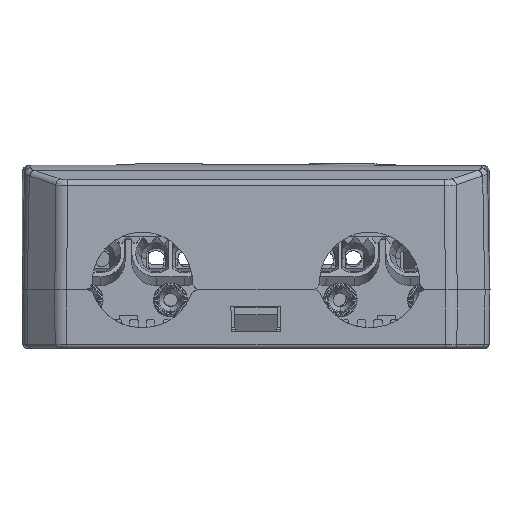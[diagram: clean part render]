
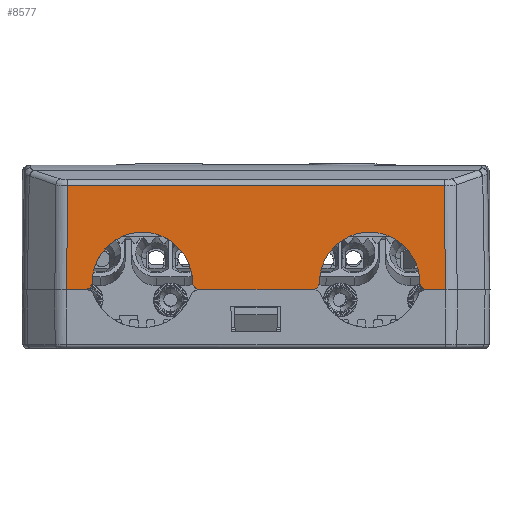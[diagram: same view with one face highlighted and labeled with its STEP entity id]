
A CAD part, left-side view. The second image highlights one B-rep face of the part: STEP entity #8577.
In plain terms, the highlighted planar face has unit normal (-1, 0, 0.018).
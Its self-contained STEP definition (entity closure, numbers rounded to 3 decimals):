
#1775=B_SPLINE_CURVE_WITH_KNOTS('',3,(#107544,#107545,#107546,#107547),
 .UNSPECIFIED.,.F.,.F.,(4,4),(0.,1.),.UNSPECIFIED.);
#1813=B_SPLINE_CURVE_WITH_KNOTS('',3,(#108153,#108154,#108155,#108156),
 .UNSPECIFIED.,.F.,.F.,(4,4),(0.,1.),.UNSPECIFIED.);
#5161=FACE_OUTER_BOUND('',#14486,.T.);
#8577=ADVANCED_FACE('',(#5161),#11369,.T.);
#11369=PLANE('',#71352);
#14486=EDGE_LOOP('',(#30129,#30130,#30131,#30132,#30133,#30134,#30135,#30136,
#30137,#30138,#30139,#30140));
#16421=ELLIPSE('',#71346,1.,1.);
#16422=ELLIPSE('',#71347,6.001,6.);
#16423=ELLIPSE('',#71348,1.,1.);
#16424=ELLIPSE('',#71349,1.,1.);
#16425=ELLIPSE('',#71350,6.001,6.);
#16426=ELLIPSE('',#71351,1.,1.);
#30129=ORIENTED_EDGE('',*,*,#50685,.F.);
#30130=ORIENTED_EDGE('',*,*,#50682,.F.);
#30131=ORIENTED_EDGE('',*,*,#50842,.T.);
#30132=ORIENTED_EDGE('',*,*,#50843,.T.);
#30133=ORIENTED_EDGE('',*,*,#50844,.T.);
#30134=ORIENTED_EDGE('',*,*,#50845,.F.);
#30135=ORIENTED_EDGE('',*,*,#50846,.T.);
#30136=ORIENTED_EDGE('',*,*,#50847,.T.);
#30137=ORIENTED_EDGE('',*,*,#50848,.T.);
#30138=ORIENTED_EDGE('',*,*,#50815,.F.);
#30139=ORIENTED_EDGE('',*,*,#50841,.F.);
#30140=ORIENTED_EDGE('',*,*,#50849,.F.);
#41924=VERTEX_POINT('',#107537);
#41925=VERTEX_POINT('',#107539);
#41927=VERTEX_POINT('',#107548);
#42018=VERTEX_POINT('',#108003);
#42019=VERTEX_POINT('',#108005);
#42036=VERTEX_POINT('',#108120);
#42037=VERTEX_POINT('',#108159);
#42038=VERTEX_POINT('',#108161);
#42039=VERTEX_POINT('',#108163);
#42040=VERTEX_POINT('',#108165);
#42041=VERTEX_POINT('',#108167);
#42042=VERTEX_POINT('',#108169);
#50682=EDGE_CURVE('',#41924,#41925,#59197,.T.);
#50685=EDGE_CURVE('',#41925,#41927,#1775,.T.);
#50815=EDGE_CURVE('',#42018,#42019,#59267,.T.);
#50841=EDGE_CURVE('',#42036,#42018,#1813,.T.);
#50842=EDGE_CURVE('',#41924,#42037,#16421,.T.);
#50843=EDGE_CURVE('',#42037,#42038,#16422,.T.);
#50844=EDGE_CURVE('',#42038,#42039,#16423,.T.);
#50845=EDGE_CURVE('',#42040,#42039,#59278,.T.);
#50846=EDGE_CURVE('',#42040,#42041,#16424,.T.);
#50847=EDGE_CURVE('',#42041,#42042,#16425,.T.);
#50848=EDGE_CURVE('',#42042,#42019,#16426,.T.);
#50849=EDGE_CURVE('',#41927,#42036,#59279,.T.);
#59197=LINE('',#107538,#65898);
#59267=LINE('',#108004,#65968);
#59278=LINE('',#108164,#65979);
#59279=LINE('',#108171,#65980);
#65898=VECTOR('',#83863,1.);
#65968=VECTOR('',#84069,1.);
#65979=VECTOR('',#84108,1.);
#65980=VECTOR('',#84115,1.);
#71346=AXIS2_PLACEMENT_3D('',#108158,#84102,#84103);
#71347=AXIS2_PLACEMENT_3D('',#108160,#84104,#84105);
#71348=AXIS2_PLACEMENT_3D('',#108162,#84106,#84107);
#71349=AXIS2_PLACEMENT_3D('',#108166,#84109,#84110);
#71350=AXIS2_PLACEMENT_3D('',#108168,#84111,#84112);
#71351=AXIS2_PLACEMENT_3D('',#108170,#84113,#84114);
#71352=AXIS2_PLACEMENT_3D('',#108172,#84116,#84117);
#83863=DIRECTION('',(0.,1.,0.));
#84069=DIRECTION('',(0.,1.,0.));
#84102=DIRECTION('',(-1.,0.,0.017));
#84103=DIRECTION('',(0.017,0.,1.));
#84104=DIRECTION('',(1.,0.,-0.017));
#84105=DIRECTION('',(0.017,0.,1.));
#84106=DIRECTION('',(-1.,0.,0.017));
#84107=DIRECTION('',(-0.017,0.,-1.));
#84108=DIRECTION('',(0.,1.,0.));
#84109=DIRECTION('',(-1.,0.,0.017));
#84110=DIRECTION('',(0.017,0.,1.));
#84111=DIRECTION('',(1.,0.,-0.017));
#84112=DIRECTION('',(-0.017,0.,-1.));
#84113=DIRECTION('',(-1.,0.,0.017));
#84114=DIRECTION('',(-0.017,0.,-1.));
#84115=DIRECTION('',(0.,-1.,0.));
#84116=DIRECTION('',(-1.,0.,0.017));
#84117=DIRECTION('',(0.,-1.,0.));
#107537=CARTESIAN_POINT('',(423.181,-87.551,-58.));
#107538=CARTESIAN_POINT('',(423.181,-87.551,-58.));
#107539=CARTESIAN_POINT('',(423.181,-85.499,-58.));
#107544=CARTESIAN_POINT('',(423.181,-85.499,-58.));
#107545=CARTESIAN_POINT('',(423.253,-85.529,-53.849));
#107546=CARTESIAN_POINT('',(423.325,-85.559,-49.699));
#107547=CARTESIAN_POINT('',(423.398,-85.589,-45.548));
#107548=CARTESIAN_POINT('',(423.398,-85.589,-45.548));
#108003=CARTESIAN_POINT('',(423.18,-130.801,-58.));
#108004=CARTESIAN_POINT('',(423.18,-130.801,-58.));
#108005=CARTESIAN_POINT('',(423.18,-128.749,-58.));
#108120=CARTESIAN_POINT('',(423.398,-130.711,-45.548));
#108153=CARTESIAN_POINT('',(423.398,-130.711,-45.548));
#108154=CARTESIAN_POINT('',(423.325,-130.741,-49.698));
#108155=CARTESIAN_POINT('',(423.253,-130.771,-53.849));
#108156=CARTESIAN_POINT('',(423.18,-130.801,-58.));
#108158=CARTESIAN_POINT('',(423.198,-87.551,-57.));
#108159=CARTESIAN_POINT('',(423.198,-88.55,-57.014));
#108160=CARTESIAN_POINT('',(423.196,-94.55,-57.1));
#108161=CARTESIAN_POINT('',(423.198,-100.549,-57.014));
#108162=CARTESIAN_POINT('',(423.198,-101.549,-57.));
#108163=CARTESIAN_POINT('',(423.181,-101.549,-58.));
#108164=CARTESIAN_POINT('',(423.181,-83.199,-58.));
#108165=CARTESIAN_POINT('',(423.18,-114.751,-58.));
#108166=CARTESIAN_POINT('',(423.198,-114.751,-57.));
#108167=CARTESIAN_POINT('',(423.198,-115.75,-57.014));
#108168=CARTESIAN_POINT('',(423.196,-121.75,-57.1));
#108169=CARTESIAN_POINT('',(423.198,-127.749,-57.014));
#108170=CARTESIAN_POINT('',(423.198,-128.749,-57.));
#108171=CARTESIAN_POINT('',(423.398,-130.996,-45.548));
#108172=CARTESIAN_POINT('',(423.181,-83.199,-58.001));
